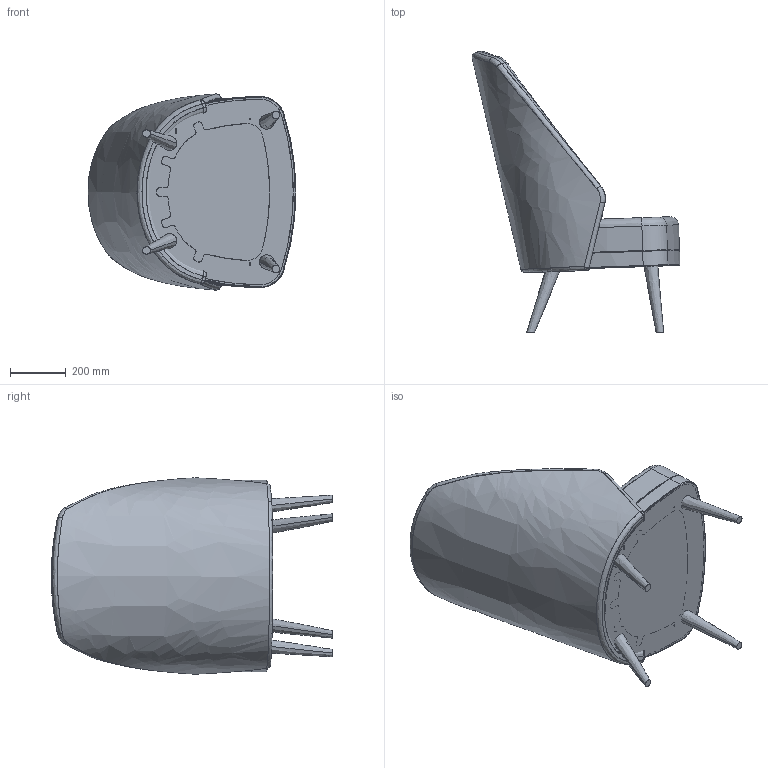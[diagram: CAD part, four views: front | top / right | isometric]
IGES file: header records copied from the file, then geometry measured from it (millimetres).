
Start section: SolidWorks IGES file using analytic representation for surfaces
Global section: file name: C:\Users\emanuel\Documents\TRABALHO\DESENHO TÉCNICO\JMS\Catalogo ALLseating 2016\POLTRONAS\3Ds\Poltrona_A941.IGS; native system: SolidWorks 2017; preprocessor: SolidWorks 2017; author: Emanuel; date: 170613.142200; units: millimetre
Bounding box: 746.9 x 1010 x 704.35 mm (x, y, z)
Surface area: 6047620.4 mm2 (no closed solid volume)
Topology: 0 solids, 0 shells, 1168 faces, 19181 edges, 19110 vertices
Faces by surface type: bspline 613, revolution 555
